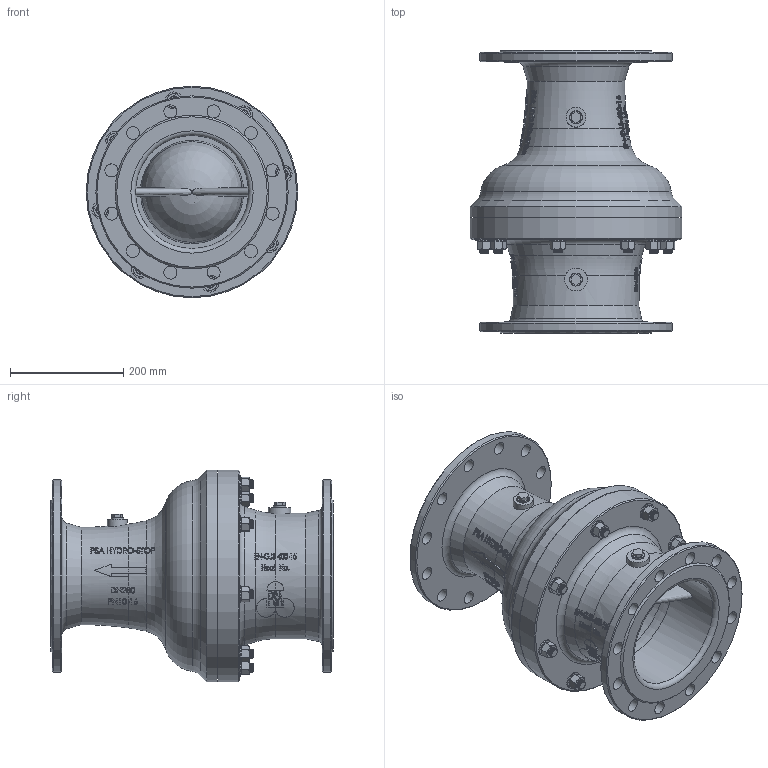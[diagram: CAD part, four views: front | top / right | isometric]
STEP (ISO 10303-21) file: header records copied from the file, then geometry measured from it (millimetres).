
FILE_DESCRIPTION(/* description */ ('PSA Hydro-Stop DN200 PN16'),/* implementation_level */ '2;1');
FILE_NAME(/* name */ 'PSA_Hydro-Stop_DN200_PN16',/* time_stamp */ '2024-10-09T15:03:15+02:00',/* author */ ('Christin-Michelle Fremgen'),/* organization */ ('PSA Wasserarmaturen GmbH'),/* preprocessor_version */ 'ST-DEVELOPER v18.104',/* originating_system */ 'Solid Edge',/* authorisation */ 'Unknown');
FILE_SCHEMA (('AUTOMOTIVE_DESIGN {1 0 10303 214 3 1 1}'));
Products named in the file (1): PSA_Hydro-Stop_DN200_PN16
Bounding box: 374 x 500 x 374 mm (x, y, z)
Volume: 14930273.3 mm3; surface area: 1412117.2 mm2
Topology: 1 solids, 86 shells, 2227 faces, 5555 edges, 3480 vertices
Faces by surface type: plane 666, cone 616, bspline 404, cylinder 389, torus 148, sphere 4
Full cylindrical faces by diameter (mm): 13.835 x9, 13.98 x2, 14 x66, 14.95 x2, 16 x185, 16.66 x2, 17 x8, 18 x10, 22 x2, 23 x26, 24 x8, 30 x8, 35 x1, 40 x1, 153 x1, 168 x1, 180 x1, 200 x1, 222 x1, 340 x2, 362.395 x1, 363 x1, 374 x2
Entity records: 90714 total; most frequent: CARTESIAN_POINT 30828, ORIENTED_EDGE 8630, DIRECTION 7967, EDGE_CURVE 4315, AXIS2_PLACEMENT_3D 3394, FACE_BOUND 3343, EDGE_LOOP 3341, VERTEX_POINT 3160
